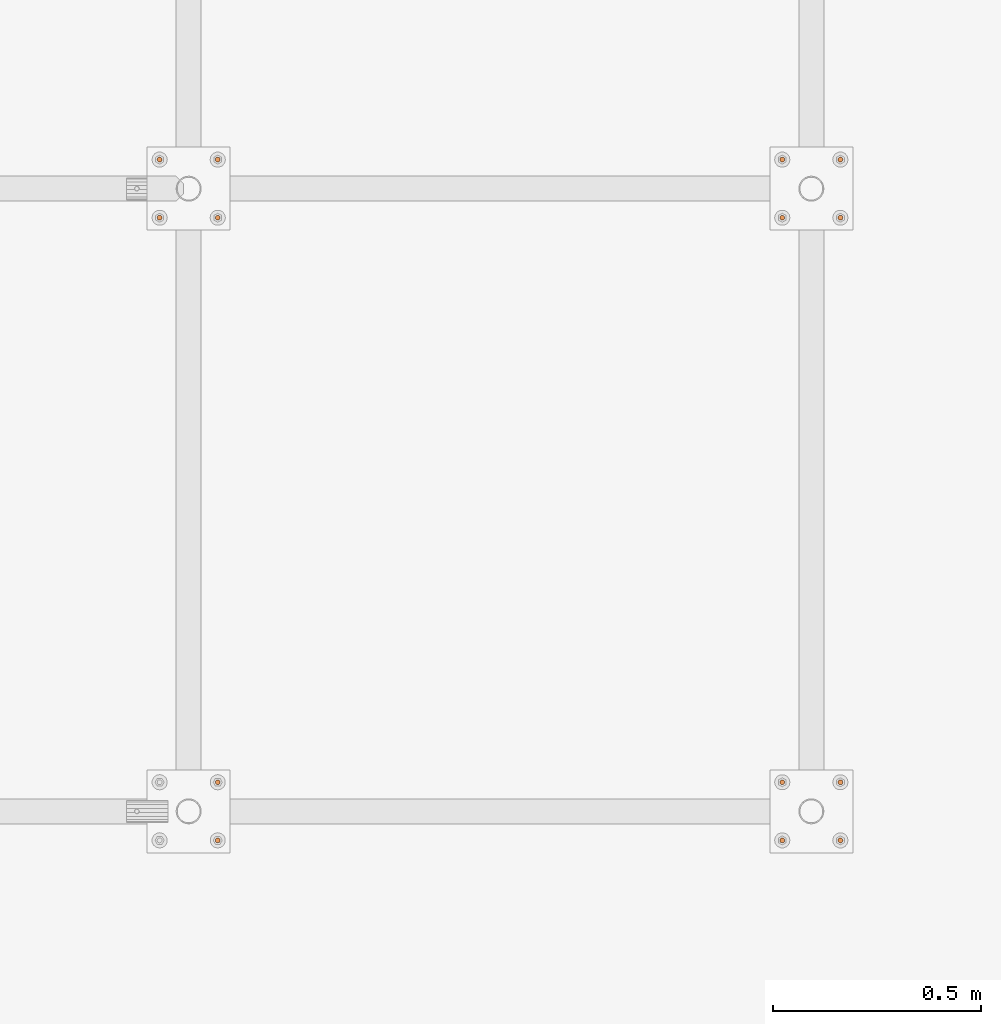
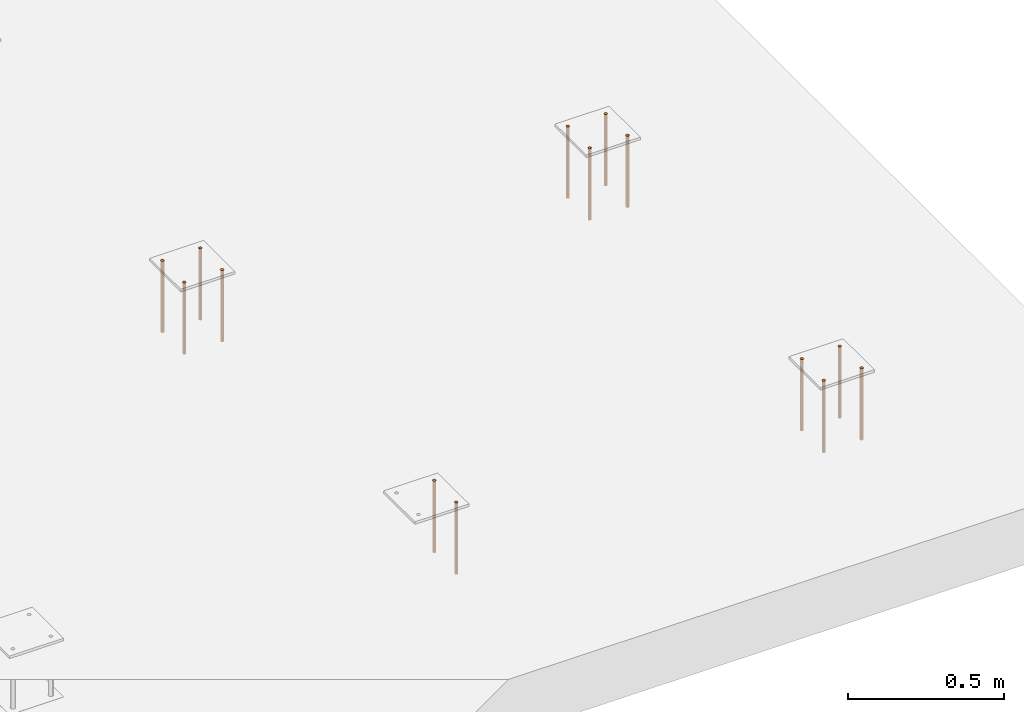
# One storey, part 17 of 30: 14 proxies.
"""IFC2X3 building model written with IfcOpenShell, lengths in millimetres."""

from ifc_helpers import new_model, entity, si_unit, converted_unit, origin_with_axes, place, context, project, spatial, faceted_brep, material, element, save


model = new_model("IFC2X3")

# Units and contexts
model_context = context("Model", 3, precision=1e-09, world=origin_with_axes())
ifc_project = project(units=[si_unit("LENGTHUNIT", "METRE", prefix="MILLI"), si_unit("AREAUNIT", "SQUARE_METRE"), si_unit("VOLUMEUNIT", "CUBIC_METRE"), converted_unit("PLANEANGLEUNIT", "DEGREE", entity("IfcPlaneAngleMeasure", 0.01745329), si_unit("PLANEANGLEUNIT", "RADIAN"), dimensions=[0, 0, 0, 0, 0, 0, 0])], contexts=[model_context])

# Site, building, storey
site_placement = place(None, origin_with_axes())
site = spatial("IfcSite", under=ifc_project, at=site_placement, Name="M?nsinger Stra?e, 81477 M?nchen", CompositionType="ELEMENT")
building_placement = place(site_placement, origin_with_axes())
building = spatial("IfcBuilding", under=site, at=building_placement, Name="Struktur 1", CompositionType="ELEMENT")
storey_placement = place(building_placement, origin_with_axes())
storey = spatial("IfcBuildingStorey", under=building, at=storey_placement, Name="Default Storey", CompositionType="ELEMENT", Elevation=0.0)

# Proxies
ifc_material = material(Name="Kein")
proxy_1_placement = place(None, origin_with_axes())
element("IfcBuildingElementProxy", 1, at=proxy_1_placement, inside=storey, material=ifc_material, ObjectType="-", context=model_context, shape_type="Brep", body=[
    faceted_brep([(7476.315117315, 3055.2632594, 6475.0), (7476.315117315, 3055.2632594, 6755.0), (7473.315117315, 3056.067106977, 6755.0), (7473.315117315, 3056.067106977, 6475.0), (7479.315117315, 3056.067106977, 6475.0), (7479.315117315, 3056.067106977, 6755.0), (7479.315117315, 3066.459411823, 6475.0), (7481.511269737, 3064.2632594, 6475.0), (7482.315117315, 3061.2632594, 6475.0), (7481.511269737, 3058.2632594, 6475.0), (7471.118964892, 3058.2632594, 6475.0), (7470.315117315, 3061.2632594, 6475.0), (7471.118964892, 3064.2632594, 6475.0), (7473.315117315, 3066.459411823, 6475.0), (7476.315117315, 3067.2632594, 6475.0), (7473.315117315, 3066.459411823, 6755.0), (7471.118964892, 3064.2632594, 6755.0), (7470.315117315, 3061.2632594, 6755.0), (7471.118964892, 3058.2632594, 6755.0), (7481.511269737, 3058.2632594, 6755.0), (7482.315117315, 3061.2632594, 6755.0), (7481.511269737, 3064.2632594, 6755.0), (7479.315117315, 3066.459411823, 6755.0), (7476.315117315, 3067.2632594, 6755.0)], [[[0, 1, 2, 3]], [[1, 0, 4, 5]], [[6, 7, 8, 9, 4, 0, 3, 10, 11, 12, 13, 14]], [[15, 16, 17, 18, 2, 1, 5, 19, 20, 21, 22, 23]], [[3, 2, 18, 10]], [[5, 4, 9, 19]], [[17, 11, 10, 18]], [[16, 12, 11, 17]], [[19, 9, 8, 20]], [[13, 15, 23, 14]], [[12, 16, 15, 13]], [[14, 23, 22, 6]], [[20, 8, 7, 21]], [[6, 22, 21, 7]]]),
])
proxy_2_placement = place(None, origin_with_axes())
element("IfcBuildingElementProxy", 2, at=proxy_2_placement, inside=storey, material=ifc_material, ObjectType="-", context=model_context, shape_type="Brep", body=[
    faceted_brep([(7336.315117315, 3055.2632594, 6475.0), (7336.315117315, 3055.2632594, 6755.0), (7333.315117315, 3056.067106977, 6755.0), (7333.315117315, 3056.067106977, 6475.0), (7339.315117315, 3056.067106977, 6475.0), (7339.315117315, 3056.067106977, 6755.0), (7339.315117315, 3066.459411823, 6475.0), (7341.511269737, 3064.2632594, 6475.0), (7342.315117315, 3061.2632594, 6475.0), (7341.511269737, 3058.2632594, 6475.0), (7331.118964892, 3058.2632594, 6475.0), (7330.315117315, 3061.2632594, 6475.0), (7331.118964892, 3064.2632594, 6475.0), (7333.315117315, 3066.459411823, 6475.0), (7336.315117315, 3067.2632594, 6475.0), (7333.315117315, 3066.459411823, 6755.0), (7331.118964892, 3064.2632594, 6755.0), (7330.315117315, 3061.2632594, 6755.0), (7331.118964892, 3058.2632594, 6755.0), (7341.511269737, 3058.2632594, 6755.0), (7342.315117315, 3061.2632594, 6755.0), (7341.511269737, 3064.2632594, 6755.0), (7339.315117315, 3066.459411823, 6755.0), (7336.315117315, 3067.2632594, 6755.0)], [[[0, 1, 2, 3]], [[1, 0, 4, 5]], [[6, 7, 8, 9, 4, 0, 3, 10, 11, 12, 13, 14]], [[15, 16, 17, 18, 2, 1, 5, 19, 20, 21, 22, 23]], [[3, 2, 18, 10]], [[5, 4, 9, 19]], [[17, 11, 10, 18]], [[16, 12, 11, 17]], [[19, 9, 8, 20]], [[13, 15, 23, 14]], [[12, 16, 15, 13]], [[14, 23, 22, 6]], [[20, 8, 7, 21]], [[6, 22, 21, 7]]]),
])
proxy_3_placement = place(None, origin_with_axes())
element("IfcBuildingElementProxy", 3, at=proxy_3_placement, inside=storey, material=ifc_material, ObjectType="-", context=model_context, shape_type="Brep", body=[
    faceted_brep([(7476.315117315, 2915.2632594, 6475.0), (7476.315117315, 2915.2632594, 6755.0), (7473.315117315, 2916.067106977, 6755.0), (7473.315117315, 2916.067106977, 6475.0), (7479.315117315, 2916.067106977, 6475.0), (7479.315117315, 2916.067106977, 6755.0), (7479.315117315, 2926.459411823, 6475.0), (7481.511269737, 2924.2632594, 6475.0), (7482.315117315, 2921.2632594, 6475.0), (7481.511269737, 2918.2632594, 6475.0), (7471.118964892, 2918.2632594, 6475.0), (7470.315117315, 2921.2632594, 6475.0), (7471.118964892, 2924.2632594, 6475.0), (7473.315117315, 2926.459411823, 6475.0), (7476.315117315, 2927.2632594, 6475.0), (7473.315117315, 2926.459411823, 6755.0), (7471.118964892, 2924.2632594, 6755.0), (7470.315117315, 2921.2632594, 6755.0), (7471.118964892, 2918.2632594, 6755.0), (7481.511269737, 2918.2632594, 6755.0), (7482.315117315, 2921.2632594, 6755.0), (7481.511269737, 2924.2632594, 6755.0), (7479.315117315, 2926.459411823, 6755.0), (7476.315117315, 2927.2632594, 6755.0)], [[[0, 1, 2, 3]], [[1, 0, 4, 5]], [[6, 7, 8, 9, 4, 0, 3, 10, 11, 12, 13, 14]], [[15, 16, 17, 18, 2, 1, 5, 19, 20, 21, 22, 23]], [[3, 2, 18, 10]], [[5, 4, 9, 19]], [[17, 11, 10, 18]], [[16, 12, 11, 17]], [[19, 9, 8, 20]], [[13, 15, 23, 14]], [[12, 16, 15, 13]], [[14, 23, 22, 6]], [[20, 8, 7, 21]], [[6, 22, 21, 7]]]),
])
proxy_4_placement = place(None, origin_with_axes())
element("IfcBuildingElementProxy", 4, at=proxy_4_placement, inside=storey, material=ifc_material, ObjectType="-", context=model_context, shape_type="Brep", body=[
    faceted_brep([(7336.315117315, 2915.2632594, 6475.0), (7336.315117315, 2915.2632594, 6755.0), (7333.315117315, 2916.067106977, 6755.0), (7333.315117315, 2916.067106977, 6475.0), (7339.315117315, 2916.067106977, 6475.0), (7339.315117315, 2916.067106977, 6755.0), (7339.315117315, 2926.459411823, 6475.0), (7341.511269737, 2924.2632594, 6475.0), (7342.315117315, 2921.2632594, 6475.0), (7341.511269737, 2918.2632594, 6475.0), (7331.118964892, 2918.2632594, 6475.0), (7330.315117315, 2921.2632594, 6475.0), (7331.118964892, 2924.2632594, 6475.0), (7333.315117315, 2926.459411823, 6475.0), (7336.315117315, 2927.2632594, 6475.0), (7333.315117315, 2926.459411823, 6755.0), (7331.118964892, 2924.2632594, 6755.0), (7330.315117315, 2921.2632594, 6755.0), (7331.118964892, 2918.2632594, 6755.0), (7341.511269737, 2918.2632594, 6755.0), (7342.315117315, 2921.2632594, 6755.0), (7341.511269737, 2924.2632594, 6755.0), (7339.315117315, 2926.459411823, 6755.0), (7336.315117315, 2927.2632594, 6755.0)], [[[0, 1, 2, 3]], [[1, 0, 4, 5]], [[6, 7, 8, 9, 4, 0, 3, 10, 11, 12, 13, 14]], [[15, 16, 17, 18, 2, 1, 5, 19, 20, 21, 22, 23]], [[3, 2, 18, 10]], [[5, 4, 9, 19]], [[17, 11, 10, 18]], [[16, 12, 11, 17]], [[19, 9, 8, 20]], [[13, 15, 23, 14]], [[12, 16, 15, 13]], [[14, 23, 22, 6]], [[20, 8, 7, 21]], [[6, 22, 21, 7]]]),
])
proxy_5_placement = place(None, origin_with_axes())
element("IfcBuildingElementProxy", 5, at=proxy_5_placement, inside=storey, material=ifc_material, ObjectType="-", context=model_context, shape_type="Brep", body=[
    faceted_brep([(8976.315117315, 2915.2632594, 6755.0), (8976.315117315, 2915.2632594, 6475.0), (8979.315117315, 2916.067106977, 6475.0), (8979.315117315, 2916.067106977, 6755.0), (8973.315117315, 2916.067106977, 6755.0), (8973.315117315, 2916.067106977, 6475.0), (8971.118964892, 2924.2632594, 6475.0), (8973.315117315, 2926.459411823, 6475.0), (8976.315117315, 2927.2632594, 6475.0), (8979.315117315, 2926.459411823, 6475.0), (8981.511269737, 2924.2632594, 6475.0), (8982.315117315, 2921.2632594, 6475.0), (8981.511269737, 2918.2632594, 6475.0), (8971.118964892, 2918.2632594, 6475.0), (8970.315117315, 2921.2632594, 6475.0), (8981.511269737, 2924.2632594, 6755.0), (8979.315117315, 2926.459411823, 6755.0), (8976.315117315, 2927.2632594, 6755.0), (8973.315117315, 2926.459411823, 6755.0), (8971.118964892, 2924.2632594, 6755.0), (8970.315117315, 2921.2632594, 6755.0), (8971.118964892, 2918.2632594, 6755.0), (8981.511269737, 2918.2632594, 6755.0), (8982.315117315, 2921.2632594, 6755.0)], [[[0, 1, 2, 3]], [[1, 0, 4, 5]], [[6, 7, 8, 9, 10, 11, 12, 2, 1, 5, 13, 14]], [[15, 16, 17, 18, 19, 20, 21, 4, 0, 3, 22, 23]], [[3, 2, 12, 22]], [[5, 4, 21, 13]], [[11, 23, 22, 12]], [[10, 15, 23, 11]], [[13, 21, 20, 14]], [[16, 9, 8, 17]], [[15, 10, 9, 16]], [[17, 8, 7, 18]], [[14, 20, 19, 6]], [[18, 7, 6, 19]]]),
])
proxy_6_placement = place(None, origin_with_axes())
element("IfcBuildingElementProxy", 6, at=proxy_6_placement, inside=storey, material=ifc_material, ObjectType="-", context=model_context, shape_type="Brep", body=[
    faceted_brep([(8836.315117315, 2915.2632594, 6755.0), (8836.315117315, 2915.2632594, 6475.0), (8839.315117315, 2916.067106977, 6475.0), (8839.315117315, 2916.067106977, 6755.0), (8833.315117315, 2916.067106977, 6755.0), (8833.315117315, 2916.067106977, 6475.0), (8831.118964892, 2924.2632594, 6475.0), (8833.315117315, 2926.459411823, 6475.0), (8836.315117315, 2927.2632594, 6475.0), (8839.315117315, 2926.459411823, 6475.0), (8841.511269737, 2924.2632594, 6475.0), (8842.315117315, 2921.2632594, 6475.0), (8841.511269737, 2918.2632594, 6475.0), (8831.118964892, 2918.2632594, 6475.0), (8830.315117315, 2921.2632594, 6475.0), (8841.511269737, 2924.2632594, 6755.0), (8839.315117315, 2926.459411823, 6755.0), (8836.315117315, 2927.2632594, 6755.0), (8833.315117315, 2926.459411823, 6755.0), (8831.118964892, 2924.2632594, 6755.0), (8830.315117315, 2921.2632594, 6755.0), (8831.118964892, 2918.2632594, 6755.0), (8841.511269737, 2918.2632594, 6755.0), (8842.315117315, 2921.2632594, 6755.0)], [[[0, 1, 2, 3]], [[1, 0, 4, 5]], [[6, 7, 8, 9, 10, 11, 12, 2, 1, 5, 13, 14]], [[15, 16, 17, 18, 19, 20, 21, 4, 0, 3, 22, 23]], [[3, 2, 12, 22]], [[5, 4, 21, 13]], [[11, 23, 22, 12]], [[10, 15, 23, 11]], [[13, 21, 20, 14]], [[16, 9, 8, 17]], [[15, 10, 9, 16]], [[17, 8, 7, 18]], [[14, 20, 19, 6]], [[18, 7, 6, 19]]]),
])
proxy_7_placement = place(None, origin_with_axes())
element("IfcBuildingElementProxy", 7, at=proxy_7_placement, inside=storey, material=ifc_material, ObjectType="-", context=model_context, shape_type="Brep", body=[
    faceted_brep([(8976.315117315, 3055.2632594, 6755.0), (8976.315117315, 3055.2632594, 6475.0), (8979.315117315, 3056.067106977, 6475.0), (8979.315117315, 3056.067106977, 6755.0), (8973.315117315, 3056.067106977, 6755.0), (8973.315117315, 3056.067106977, 6475.0), (8971.118964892, 3064.2632594, 6475.0), (8973.315117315, 3066.459411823, 6475.0), (8976.315117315, 3067.2632594, 6475.0), (8979.315117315, 3066.459411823, 6475.0), (8981.511269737, 3064.2632594, 6475.0), (8982.315117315, 3061.2632594, 6475.0), (8981.511269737, 3058.2632594, 6475.0), (8971.118964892, 3058.2632594, 6475.0), (8970.315117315, 3061.2632594, 6475.0), (8981.511269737, 3064.2632594, 6755.0), (8979.315117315, 3066.459411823, 6755.0), (8976.315117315, 3067.2632594, 6755.0), (8973.315117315, 3066.459411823, 6755.0), (8971.118964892, 3064.2632594, 6755.0), (8970.315117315, 3061.2632594, 6755.0), (8971.118964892, 3058.2632594, 6755.0), (8981.511269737, 3058.2632594, 6755.0), (8982.315117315, 3061.2632594, 6755.0)], [[[0, 1, 2, 3]], [[1, 0, 4, 5]], [[6, 7, 8, 9, 10, 11, 12, 2, 1, 5, 13, 14]], [[15, 16, 17, 18, 19, 20, 21, 4, 0, 3, 22, 23]], [[3, 2, 12, 22]], [[5, 4, 21, 13]], [[11, 23, 22, 12]], [[10, 15, 23, 11]], [[13, 21, 20, 14]], [[16, 9, 8, 17]], [[15, 10, 9, 16]], [[17, 8, 7, 18]], [[14, 20, 19, 6]], [[18, 7, 6, 19]]]),
])
proxy_8_placement = place(None, origin_with_axes())
element("IfcBuildingElementProxy", 8, at=proxy_8_placement, inside=storey, material=ifc_material, ObjectType="-", context=model_context, shape_type="Brep", body=[
    faceted_brep([(8836.315117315, 3055.2632594, 6755.0), (8836.315117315, 3055.2632594, 6475.0), (8839.315117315, 3056.067106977, 6475.0), (8839.315117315, 3056.067106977, 6755.0), (8833.315117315, 3056.067106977, 6755.0), (8833.315117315, 3056.067106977, 6475.0), (8831.118964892, 3064.2632594, 6475.0), (8833.315117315, 3066.459411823, 6475.0), (8836.315117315, 3067.2632594, 6475.0), (8839.315117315, 3066.459411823, 6475.0), (8841.511269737, 3064.2632594, 6475.0), (8842.315117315, 3061.2632594, 6475.0), (8841.511269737, 3058.2632594, 6475.0), (8831.118964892, 3058.2632594, 6475.0), (8830.315117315, 3061.2632594, 6475.0), (8841.511269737, 3064.2632594, 6755.0), (8839.315117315, 3066.459411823, 6755.0), (8836.315117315, 3067.2632594, 6755.0), (8833.315117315, 3066.459411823, 6755.0), (8831.118964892, 3064.2632594, 6755.0), (8830.315117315, 3061.2632594, 6755.0), (8831.118964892, 3058.2632594, 6755.0), (8841.511269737, 3058.2632594, 6755.0), (8842.315117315, 3061.2632594, 6755.0)], [[[0, 1, 2, 3]], [[1, 0, 4, 5]], [[6, 7, 8, 9, 10, 11, 12, 2, 1, 5, 13, 14]], [[15, 16, 17, 18, 19, 20, 21, 4, 0, 3, 22, 23]], [[3, 2, 12, 22]], [[5, 4, 21, 13]], [[11, 23, 22, 12]], [[10, 15, 23, 11]], [[13, 21, 20, 14]], [[16, 9, 8, 17]], [[15, 10, 9, 16]], [[17, 8, 7, 18]], [[14, 20, 19, 6]], [[18, 7, 6, 19]]]),
])
proxy_9_placement = place(None, origin_with_axes())
element("IfcBuildingElementProxy", 9, at=proxy_9_placement, inside=storey, material=ifc_material, ObjectType="-", context=model_context, shape_type="Brep", body=[
    faceted_brep([(7470.315117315, 1561.2632594, 6755.0), (7470.315117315, 1561.2632594, 6475.0), (7471.118964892, 1558.2632594, 6475.0), (7471.118964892, 1558.2632594, 6755.0), (7471.118964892, 1564.2632594, 6755.0), (7471.118964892, 1564.2632594, 6475.0), (7479.315117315, 1566.459411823, 6475.0), (7481.511269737, 1564.2632594, 6475.0), (7482.315117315, 1561.2632594, 6475.0), (7481.511269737, 1558.2632594, 6475.0), (7479.315117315, 1556.067106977, 6475.0), (7476.315117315, 1555.2632594, 6475.0), (7473.315117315, 1556.067106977, 6475.0), (7473.315117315, 1566.459411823, 6475.0), (7476.315117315, 1567.2632594, 6475.0), (7479.315117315, 1556.067106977, 6755.0), (7481.511269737, 1558.2632594, 6755.0), (7482.315117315, 1561.2632594, 6755.0), (7481.511269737, 1564.2632594, 6755.0), (7479.315117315, 1566.459411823, 6755.0), (7476.315117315, 1567.2632594, 6755.0), (7473.315117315, 1566.459411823, 6755.0), (7473.315117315, 1556.067106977, 6755.0), (7476.315117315, 1555.2632594, 6755.0)], [[[0, 1, 2, 3]], [[1, 0, 4, 5]], [[6, 7, 8, 9, 10, 11, 12, 2, 1, 5, 13, 14]], [[15, 16, 17, 18, 19, 20, 21, 4, 0, 3, 22, 23]], [[3, 2, 12, 22]], [[5, 4, 21, 13]], [[11, 23, 22, 12]], [[10, 15, 23, 11]], [[13, 21, 20, 14]], [[16, 9, 8, 17]], [[15, 10, 9, 16]], [[17, 8, 7, 18]], [[14, 20, 19, 6]], [[18, 7, 6, 19]]]),
])
proxy_10_placement = place(None, origin_with_axes())
element("IfcBuildingElementProxy", 10, at=proxy_10_placement, inside=storey, material=ifc_material, ObjectType="-", context=model_context, shape_type="Brep", body=[
    faceted_brep([(7470.315117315, 1421.2632594, 6755.0), (7470.315117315, 1421.2632594, 6475.0), (7471.118964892, 1418.2632594, 6475.0), (7471.118964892, 1418.2632594, 6755.0), (7471.118964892, 1424.2632594, 6755.0), (7471.118964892, 1424.2632594, 6475.0), (7479.315117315, 1426.459411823, 6475.0), (7481.511269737, 1424.2632594, 6475.0), (7482.315117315, 1421.2632594, 6475.0), (7481.511269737, 1418.2632594, 6475.0), (7479.315117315, 1416.067106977, 6475.0), (7476.315117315, 1415.2632594, 6475.0), (7473.315117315, 1416.067106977, 6475.0), (7473.315117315, 1426.459411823, 6475.0), (7476.315117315, 1427.2632594, 6475.0), (7479.315117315, 1416.067106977, 6755.0), (7481.511269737, 1418.2632594, 6755.0), (7482.315117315, 1421.2632594, 6755.0), (7481.511269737, 1424.2632594, 6755.0), (7479.315117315, 1426.459411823, 6755.0), (7476.315117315, 1427.2632594, 6755.0), (7473.315117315, 1426.459411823, 6755.0), (7473.315117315, 1416.067106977, 6755.0), (7476.315117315, 1415.2632594, 6755.0)], [[[0, 1, 2, 3]], [[1, 0, 4, 5]], [[6, 7, 8, 9, 10, 11, 12, 2, 1, 5, 13, 14]], [[15, 16, 17, 18, 19, 20, 21, 4, 0, 3, 22, 23]], [[3, 2, 12, 22]], [[5, 4, 21, 13]], [[11, 23, 22, 12]], [[10, 15, 23, 11]], [[13, 21, 20, 14]], [[16, 9, 8, 17]], [[15, 10, 9, 16]], [[17, 8, 7, 18]], [[14, 20, 19, 6]], [[18, 7, 6, 19]]]),
])
proxy_11_placement = place(None, origin_with_axes())
element("IfcBuildingElementProxy", 11, at=proxy_11_placement, inside=storey, material=ifc_material, ObjectType="-", context=model_context, shape_type="Brep", body=[
    faceted_brep([(8836.315117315, 1427.2632594, 6475.0), (8836.315117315, 1427.2632594, 6755.0), (8839.315117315, 1426.459411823, 6755.0), (8839.315117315, 1426.459411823, 6475.0), (8833.315117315, 1426.459411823, 6475.0), (8833.315117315, 1426.459411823, 6755.0), (8833.315117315, 1416.067106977, 6475.0), (8831.118964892, 1418.2632594, 6475.0), (8830.315117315, 1421.2632594, 6475.0), (8831.118964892, 1424.2632594, 6475.0), (8841.511269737, 1424.2632594, 6475.0), (8842.315117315, 1421.2632594, 6475.0), (8841.511269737, 1418.2632594, 6475.0), (8839.315117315, 1416.067106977, 6475.0), (8836.315117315, 1415.2632594, 6475.0), (8839.315117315, 1416.067106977, 6755.0), (8841.511269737, 1418.2632594, 6755.0), (8842.315117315, 1421.2632594, 6755.0), (8841.511269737, 1424.2632594, 6755.0), (8831.118964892, 1424.2632594, 6755.0), (8830.315117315, 1421.2632594, 6755.0), (8831.118964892, 1418.2632594, 6755.0), (8833.315117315, 1416.067106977, 6755.0), (8836.315117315, 1415.2632594, 6755.0)], [[[0, 1, 2, 3]], [[1, 0, 4, 5]], [[6, 7, 8, 9, 4, 0, 3, 10, 11, 12, 13, 14]], [[15, 16, 17, 18, 2, 1, 5, 19, 20, 21, 22, 23]], [[3, 2, 18, 10]], [[5, 4, 9, 19]], [[17, 11, 10, 18]], [[16, 12, 11, 17]], [[19, 9, 8, 20]], [[13, 15, 23, 14]], [[12, 16, 15, 13]], [[14, 23, 22, 6]], [[20, 8, 7, 21]], [[6, 22, 21, 7]]]),
])
proxy_12_placement = place(None, origin_with_axes())
element("IfcBuildingElementProxy", 12, at=proxy_12_placement, inside=storey, material=ifc_material, ObjectType="-", context=model_context, shape_type="Brep", body=[
    faceted_brep([(8976.315117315, 1427.2632594, 6475.0), (8976.315117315, 1427.2632594, 6755.0), (8979.315117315, 1426.459411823, 6755.0), (8979.315117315, 1426.459411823, 6475.0), (8973.315117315, 1426.459411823, 6475.0), (8973.315117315, 1426.459411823, 6755.0), (8973.315117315, 1416.067106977, 6475.0), (8971.118964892, 1418.2632594, 6475.0), (8970.315117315, 1421.2632594, 6475.0), (8971.118964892, 1424.2632594, 6475.0), (8981.511269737, 1424.2632594, 6475.0), (8982.315117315, 1421.2632594, 6475.0), (8981.511269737, 1418.2632594, 6475.0), (8979.315117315, 1416.067106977, 6475.0), (8976.315117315, 1415.2632594, 6475.0), (8979.315117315, 1416.067106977, 6755.0), (8981.511269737, 1418.2632594, 6755.0), (8982.315117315, 1421.2632594, 6755.0), (8981.511269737, 1424.2632594, 6755.0), (8971.118964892, 1424.2632594, 6755.0), (8970.315117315, 1421.2632594, 6755.0), (8971.118964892, 1418.2632594, 6755.0), (8973.315117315, 1416.067106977, 6755.0), (8976.315117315, 1415.2632594, 6755.0)], [[[0, 1, 2, 3]], [[1, 0, 4, 5]], [[6, 7, 8, 9, 4, 0, 3, 10, 11, 12, 13, 14]], [[15, 16, 17, 18, 2, 1, 5, 19, 20, 21, 22, 23]], [[3, 2, 18, 10]], [[5, 4, 9, 19]], [[17, 11, 10, 18]], [[16, 12, 11, 17]], [[19, 9, 8, 20]], [[13, 15, 23, 14]], [[12, 16, 15, 13]], [[14, 23, 22, 6]], [[20, 8, 7, 21]], [[6, 22, 21, 7]]]),
])
proxy_13_placement = place(None, origin_with_axes())
element("IfcBuildingElementProxy", 13, at=proxy_13_placement, inside=storey, material=ifc_material, ObjectType="-", context=model_context, shape_type="Brep", body=[
    faceted_brep([(8836.315117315, 1567.2632594, 6475.0), (8836.315117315, 1567.2632594, 6755.0), (8839.315117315, 1566.459411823, 6755.0), (8839.315117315, 1566.459411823, 6475.0), (8833.315117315, 1566.459411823, 6475.0), (8833.315117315, 1566.459411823, 6755.0), (8833.315117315, 1556.067106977, 6475.0), (8831.118964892, 1558.2632594, 6475.0), (8830.315117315, 1561.2632594, 6475.0), (8831.118964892, 1564.2632594, 6475.0), (8841.511269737, 1564.2632594, 6475.0), (8842.315117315, 1561.2632594, 6475.0), (8841.511269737, 1558.2632594, 6475.0), (8839.315117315, 1556.067106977, 6475.0), (8836.315117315, 1555.2632594, 6475.0), (8839.315117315, 1556.067106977, 6755.0), (8841.511269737, 1558.2632594, 6755.0), (8842.315117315, 1561.2632594, 6755.0), (8841.511269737, 1564.2632594, 6755.0), (8831.118964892, 1564.2632594, 6755.0), (8830.315117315, 1561.2632594, 6755.0), (8831.118964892, 1558.2632594, 6755.0), (8833.315117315, 1556.067106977, 6755.0), (8836.315117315, 1555.2632594, 6755.0)], [[[0, 1, 2, 3]], [[1, 0, 4, 5]], [[6, 7, 8, 9, 4, 0, 3, 10, 11, 12, 13, 14]], [[15, 16, 17, 18, 2, 1, 5, 19, 20, 21, 22, 23]], [[3, 2, 18, 10]], [[5, 4, 9, 19]], [[17, 11, 10, 18]], [[16, 12, 11, 17]], [[19, 9, 8, 20]], [[13, 15, 23, 14]], [[12, 16, 15, 13]], [[14, 23, 22, 6]], [[20, 8, 7, 21]], [[6, 22, 21, 7]]]),
])
proxy_14_placement = place(None, origin_with_axes())
element("IfcBuildingElementProxy", 14, at=proxy_14_placement, inside=storey, material=ifc_material, ObjectType="-", context=model_context, shape_type="Brep", body=[
    faceted_brep([(8976.315117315, 1567.2632594, 6475.0), (8976.315117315, 1567.2632594, 6755.0), (8979.315117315, 1566.459411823, 6755.0), (8979.315117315, 1566.459411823, 6475.0), (8973.315117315, 1566.459411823, 6475.0), (8973.315117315, 1566.459411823, 6755.0), (8973.315117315, 1556.067106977, 6475.0), (8971.118964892, 1558.2632594, 6475.0), (8970.315117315, 1561.2632594, 6475.0), (8971.118964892, 1564.2632594, 6475.0), (8981.511269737, 1564.2632594, 6475.0), (8982.315117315, 1561.2632594, 6475.0), (8981.511269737, 1558.2632594, 6475.0), (8979.315117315, 1556.067106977, 6475.0), (8976.315117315, 1555.2632594, 6475.0), (8979.315117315, 1556.067106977, 6755.0), (8981.511269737, 1558.2632594, 6755.0), (8982.315117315, 1561.2632594, 6755.0), (8981.511269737, 1564.2632594, 6755.0), (8971.118964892, 1564.2632594, 6755.0), (8970.315117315, 1561.2632594, 6755.0), (8971.118964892, 1558.2632594, 6755.0), (8973.315117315, 1556.067106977, 6755.0), (8976.315117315, 1555.2632594, 6755.0)], [[[0, 1, 2, 3]], [[1, 0, 4, 5]], [[6, 7, 8, 9, 4, 0, 3, 10, 11, 12, 13, 14]], [[15, 16, 17, 18, 2, 1, 5, 19, 20, 21, 22, 23]], [[3, 2, 18, 10]], [[5, 4, 9, 19]], [[17, 11, 10, 18]], [[16, 12, 11, 17]], [[19, 9, 8, 20]], [[13, 15, 23, 14]], [[12, 16, 15, 13]], [[14, 23, 22, 6]], [[20, 8, 7, 21]], [[6, 22, 21, 7]]]),
])

save(model, "model.ifc")
